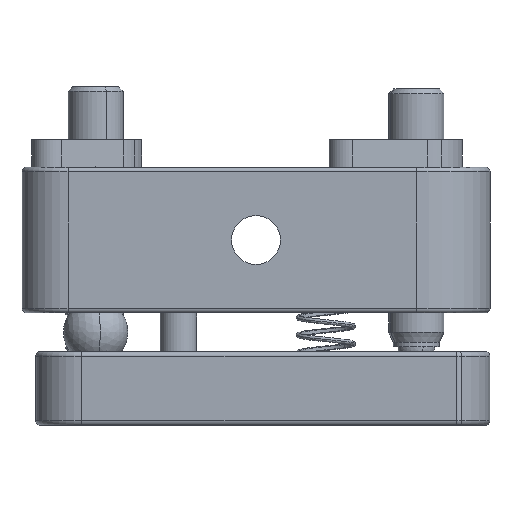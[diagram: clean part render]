
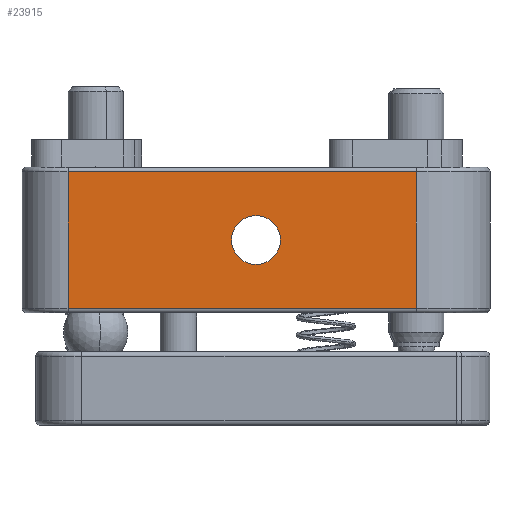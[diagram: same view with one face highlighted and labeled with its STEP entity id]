
A CAD part, front view. The second image highlights one B-rep face of the part: STEP entity #23915.
In plain terms, the highlighted planar face has unit normal (0, -1, 0).
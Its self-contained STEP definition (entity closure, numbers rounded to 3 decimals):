
#181 = CARTESIAN_POINT ( 'NONE',  ( 36.252, 27.866, -43.489 ) ) ;
#1806 = DIRECTION ( 'NONE',  ( 1., 0., 0. ) ) ;
#1921 = CIRCLE ( 'NONE', #15627, 2.65 ) ;
#2087 = DIRECTION ( 'NONE',  ( -1., 0., 0. ) ) ;
#2823 = VERTEX_POINT ( 'NONE', #14702 ) ;
#3305 = VERTEX_POINT ( 'NONE', #8156 ) ;
#3934 = PLANE ( 'NONE',  #5399 ) ;
#4553 = EDGE_CURVE ( 'NONE', #19449, #3305, #1921, .T. ) ;
#4771 = EDGE_CURVE ( 'NONE', #2823, #11475, #11126, .T. ) ;
#4775 = CARTESIAN_POINT ( 'NONE',  ( 56.652, 27.866, -50.889 ) ) ;
#5063 = LINE ( 'NONE', #12543, #12750 ) ;
#5360 = VERTEX_POINT ( 'NONE', #23072 ) ;
#5399 = AXIS2_PLACEMENT_3D ( 'NONE', #11414, #18876, #2087 ) ;
#5556 = EDGE_CURVE ( 'NONE', #3305, #19449, #7285, .T. ) ;
#6893 = DIRECTION ( 'NONE',  ( 0., -1., 0. ) ) ;
#7001 = CARTESIAN_POINT ( 'NONE',  ( 74.052, 27.866, -58.289 ) ) ;
#7285 = CIRCLE ( 'NONE', #10436, 2.65 ) ;
#7404 = DIRECTION ( 'NONE',  ( -1., 0., 0. ) ) ;
#7433 = DIRECTION ( 'NONE',  ( 0., 0., -1. ) ) ;
#8156 = CARTESIAN_POINT ( 'NONE',  ( 54.002, 27.866, -50.889 ) ) ;
#8667 = EDGE_CURVE ( 'NONE', #5360, #11475, #5063, .T. ) ;
#8775 = ORIENTED_EDGE ( 'NONE', *, *, #18753, .T. ) ;
#10436 = AXIS2_PLACEMENT_3D ( 'NONE', #23671, #6893, #14383 ) ;
#10711 = VECTOR ( 'NONE', #7433, 1000. ) ;
#11126 = LINE ( 'NONE', #18599, #16642 ) ;
#11414 = CARTESIAN_POINT ( 'NONE',  ( 74.052, 27.866, -42.989 ) ) ;
#11475 = VERTEX_POINT ( 'NONE', #7001 ) ;
#12025 = EDGE_CURVE ( 'NONE', #23100, #2823, #16751, .T. ) ;
#12261 = DIRECTION ( 'NONE',  ( 0., -1., 0. ) ) ;
#12512 = VECTOR ( 'NONE', #7404, 1000. ) ;
#12543 = CARTESIAN_POINT ( 'NONE',  ( 74.052, 27.866, -42.989 ) ) ;
#12750 = VECTOR ( 'NONE', #19994, 1000. ) ;
#12963 = ORIENTED_EDGE ( 'NONE', *, *, #4553, .F. ) ;
#13254 = FACE_BOUND ( 'NONE', #20528, .T. ) ;
#13737 = ORIENTED_EDGE ( 'NONE', *, *, #5556, .F. ) ;
#14383 = DIRECTION ( 'NONE',  ( 1., 0., 0. ) ) ;
#14702 = CARTESIAN_POINT ( 'NONE',  ( 36.252, 27.866, -58.289 ) ) ;
#15052 = EDGE_LOOP ( 'NONE', ( #15556, #18675, #17483, #8775 ) ) ;
#15556 = ORIENTED_EDGE ( 'NONE', *, *, #12025, .T. ) ;
#15627 = AXIS2_PLACEMENT_3D ( 'NONE', #4775, #12261, #19714 ) ;
#16642 = VECTOR ( 'NONE', #1806, 1000. ) ;
#16727 = LINE ( 'NONE', #24176, #12512 ) ;
#16751 = LINE ( 'NONE', #24202, #10711 ) ;
#17483 = ORIENTED_EDGE ( 'NONE', *, *, #8667, .F. ) ;
#18599 = CARTESIAN_POINT ( 'NONE',  ( 74.052, 27.866, -58.289 ) ) ;
#18675 = ORIENTED_EDGE ( 'NONE', *, *, #4771, .T. ) ;
#18753 = EDGE_CURVE ( 'NONE', #5360, #23100, #16727, .T. ) ;
#18876 = DIRECTION ( 'NONE',  ( 0., 1., 0. ) ) ;
#19255 = CARTESIAN_POINT ( 'NONE',  ( 59.302, 27.866, -50.889 ) ) ;
#19449 = VERTEX_POINT ( 'NONE', #19255 ) ;
#19714 = DIRECTION ( 'NONE',  ( 1., 0., 0. ) ) ;
#19994 = DIRECTION ( 'NONE',  ( 0., 0., -1. ) ) ;
#20528 = EDGE_LOOP ( 'NONE', ( #12963, #13737 ) ) ;
#20703 = FACE_OUTER_BOUND ( 'NONE', #15052, .T. ) ;
#23072 = CARTESIAN_POINT ( 'NONE',  ( 74.052, 27.866, -43.489 ) ) ;
#23100 = VERTEX_POINT ( 'NONE', #181 ) ;
#23671 = CARTESIAN_POINT ( 'NONE',  ( 56.652, 27.866, -50.889 ) ) ;
#23915 = ADVANCED_FACE ( 'NONE', ( #13254, #20703 ), #3934, .F. ) ;
#24176 = CARTESIAN_POINT ( 'NONE',  ( 36.252, 27.866, -43.489 ) ) ;
#24202 = CARTESIAN_POINT ( 'NONE',  ( 36.252, 27.866, -42.989 ) ) ;
